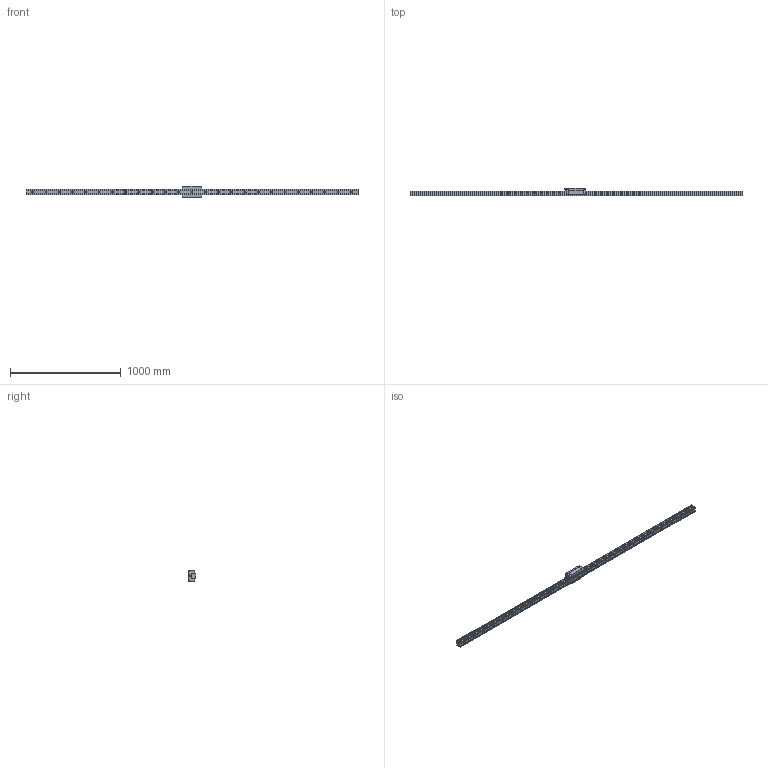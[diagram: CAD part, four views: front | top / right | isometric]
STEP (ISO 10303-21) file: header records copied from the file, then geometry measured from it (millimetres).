
FILE_DESCRIPTION(/* description */ ('STEP AP214'),/* implementation_level */ '2;1');
FILE_NAME(/* name */ 'HDR55V1SS-3000L_G60_0_B-PT18_1410-4_0_0_01',/* time_stamp */ '2023-06-30T13:01:42+02:00',/* author */ ('License CC BY-ND 4.0'),/* organization */ ('CADENAS'),/* preprocessor_version */ 'ST-DEVELOPER v19.3',/* originating_system */ 'PARTsolutions',/* authorisation */ ' ');
FILE_SCHEMA (('AUTOMOTIVE_DESIGN {1 0 10303 214 3 1 1}'));
Length unit declared in the file: millimetre
Products named in the file (4): HDR55V1SS-3000L_G60_0_B-PT18_1410-4_0_0_01; hsr_ftht_B-PT1/8_grease_nipple_joint; HDR55VSSB-PT1/81 Slider; HDR55V1300060 Rail
Assembly tree (3 placements, depth 2):
  HDR55V1SS-3000L_G60_0_B-PT18_1410-4_0_0_01
    hsr_ftht_B-PT1/8_grease_nipple_joint
    HDR55VSSB-PT1/81 Slider
    HDR55V1300060 Rail
Bounding box: 3000 x 70 x 100 mm (x, y, z)
Volume: 6421326.2 mm3; surface area: 756167.4 mm2
Topology: 3 solids, 3 shells, 304 faces, 754 edges, 491 vertices
Faces by surface type: plane 164, cylinder 111, cone 24, torus 3, sphere 2
Full cylindrical faces by diameter (mm): 5.2 x4, 9.6 x1, 10.106 x6, 10.2 x2, 12.5 x2, 16 x25, 23 x25
Entity records: 8728 total; most frequent: CARTESIAN_POINT 1565, DIRECTION 1482, ORIENTED_EDGE 1290, EDGE_CURVE 645, AXIS2_PLACEMENT_3D 556, FACE_BOUND 491, VERTEX_POINT 484, EDGE_LOOP 483
